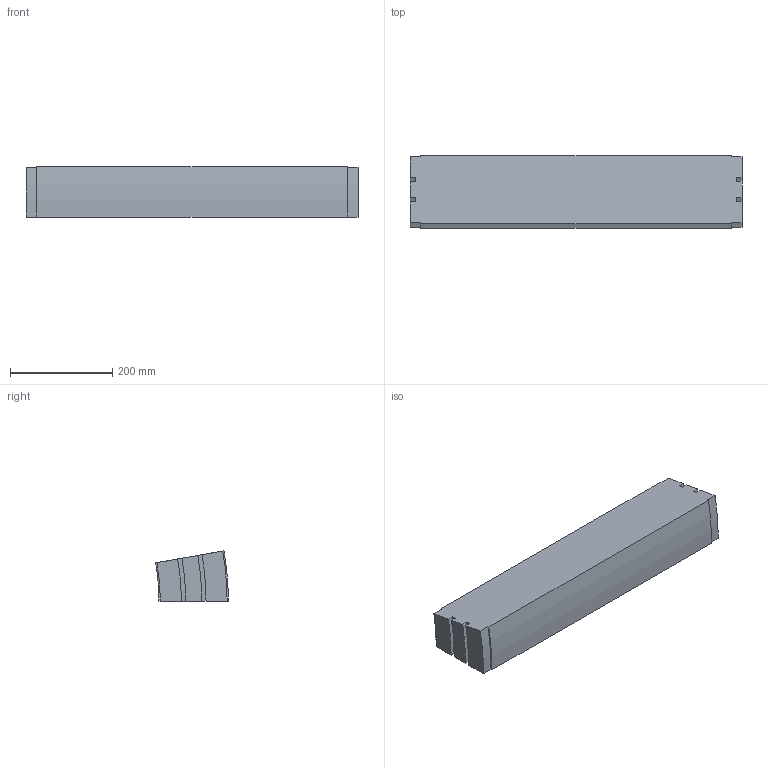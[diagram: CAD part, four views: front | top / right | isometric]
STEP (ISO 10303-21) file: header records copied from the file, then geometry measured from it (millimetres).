
FILE_DESCRIPTION (( 'STEP AP214' ), '1' );
FILE_NAME ('02.150V10.650.N FS-650-MTC-150 Bocht verticaal 10°.STEP', '2013-03-29T13:21:35', ( 'Gebruiker' ), ( '' ), 'SwSTEP 2.0', 'SolidWorks 2012', '' );
FILE_SCHEMA (( 'AUTOMOTIVE_DESIGN' ));
Length unit declared in the file: millimetre
Products named in the file (1): 02.150V10.650.N FS-650-MTC-150 Bocht verticaal 10°
Bounding box: 650.5 x 142.56 x 98.63 mm (x, y, z)
Volume: 7669325.8 mm3; surface area: 320717.6 mm2
Topology: 1 solids, 1 shells, 30 faces, 84 edges, 56 vertices
Faces by surface type: plane 16, cylinder 14
Entity records: 1010 total; most frequent: DIRECTION 174, CARTESIAN_POINT 171, ORIENTED_EDGE 168, EDGE_CURVE 84, AXIS2_PLACEMENT_3D 59, VECTOR 56, LINE 56, VERTEX_POINT 56
